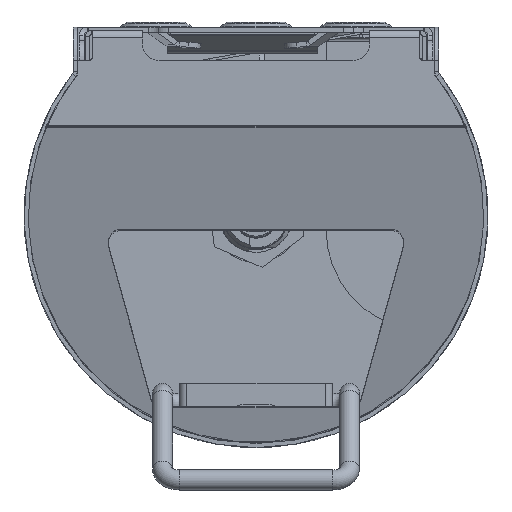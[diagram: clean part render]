
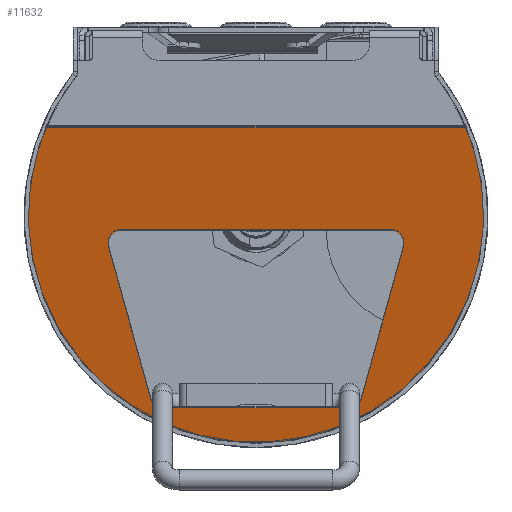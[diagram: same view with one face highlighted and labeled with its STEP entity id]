
A CAD part, front view. The second image highlights one B-rep face of the part: STEP entity #11632.
In plain terms, the highlighted planar face has unit normal (0, -0.966, -0.259) as drawn and (-0.259, -0.966, 0) by its records, which use the part's own axes.
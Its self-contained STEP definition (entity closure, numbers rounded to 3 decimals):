
#44=ELLIPSE('',#12546,70.658,68.25);
#564=FACE_BOUND('',#2084,.T.);
#823=PLANE('',#12547);
#1318=FACE_OUTER_BOUND('',#2083,.T.);
#2083=EDGE_LOOP('',(#9021,#9022));
#2084=EDGE_LOOP('',(#9023,#9024,#9025,#9026,#9027,#9028,#9029,#9030));
#2791=CIRCLE('',#12548,3.);
#2792=CIRCLE('',#12549,3.);
#2793=CIRCLE('',#12550,4.);
#2794=CIRCLE('',#12551,4.);
#3569=LINE('',#18552,#4568);
#3570=LINE('',#18555,#4569);
#3571=LINE('',#18559,#4570);
#3572=LINE('',#18563,#4571);
#3573=LINE('',#18567,#4572);
#4568=VECTOR('',#14700,125.836);
#4569=VECTOR('',#14701,49.425);
#4570=VECTOR('',#14704,57.);
#4571=VECTOR('',#14707,49.425);
#4572=VECTOR('',#14710,80.653);
#5547=VERTEX_POINT('',#18493);
#5550=VERTEX_POINT('',#18522);
#5553=VERTEX_POINT('',#18553);
#5554=VERTEX_POINT('',#18554);
#5555=VERTEX_POINT('',#18556);
#5556=VERTEX_POINT('',#18558);
#5557=VERTEX_POINT('',#18560);
#5558=VERTEX_POINT('',#18562);
#5559=VERTEX_POINT('',#18564);
#5560=VERTEX_POINT('',#18566);
#6812=EDGE_CURVE('',#5550,#5547,#44,.T.);
#6813=EDGE_CURVE('',#5547,#5550,#3569,.T.);
#6814=EDGE_CURVE('',#5553,#5554,#3570,.T.);
#6815=EDGE_CURVE('',#5554,#5555,#2791,.T.);
#6816=EDGE_CURVE('',#5555,#5556,#3571,.T.);
#6817=EDGE_CURVE('',#5556,#5557,#2792,.T.);
#6818=EDGE_CURVE('',#5557,#5558,#3572,.T.);
#6819=EDGE_CURVE('',#5558,#5559,#2793,.T.);
#6820=EDGE_CURVE('',#5559,#5560,#3573,.T.);
#6821=EDGE_CURVE('',#5560,#5553,#2794,.T.);
#9021=ORIENTED_EDGE('',*,*,#6812,.T.);
#9022=ORIENTED_EDGE('',*,*,#6813,.T.);
#9023=ORIENTED_EDGE('',*,*,#6814,.T.);
#9024=ORIENTED_EDGE('',*,*,#6815,.T.);
#9025=ORIENTED_EDGE('',*,*,#6816,.T.);
#9026=ORIENTED_EDGE('',*,*,#6817,.T.);
#9027=ORIENTED_EDGE('',*,*,#6818,.T.);
#9028=ORIENTED_EDGE('',*,*,#6819,.T.);
#9029=ORIENTED_EDGE('',*,*,#6820,.T.);
#9030=ORIENTED_EDGE('',*,*,#6821,.T.);
#11632=ADVANCED_FACE('',(#1318,#564),#823,.F.);
#12546=AXIS2_PLACEMENT_3D('',#18550,#14696,#14697);
#12547=AXIS2_PLACEMENT_3D('',#18551,#14698,#14699);
#12548=AXIS2_PLACEMENT_3D('',#18557,#14702,#14703);
#12549=AXIS2_PLACEMENT_3D('',#18561,#14705,#14706);
#12550=AXIS2_PLACEMENT_3D('',#18565,#14708,#14709);
#12551=AXIS2_PLACEMENT_3D('',#18568,#14711,#14712);
#14696=DIRECTION('center_axis',(-0.259,-0.966,0.));
#14697=DIRECTION('ref_axis',(-0.966,0.259,0.));
#14698=DIRECTION('center_axis',(0.259,0.966,0.));
#14699=DIRECTION('ref_axis',(0.,0.,1.));
#14700=DIRECTION('',(0.,0.,1.));
#14701=DIRECTION('',(-0.933,0.25,0.259));
#14702=DIRECTION('center_axis',(0.259,0.966,0.));
#14703=DIRECTION('ref_axis',(-0.966,0.259,0.));
#14704=DIRECTION('',(0.,0.,1.));
#14705=DIRECTION('center_axis',(0.259,0.966,0.));
#14706=DIRECTION('ref_axis',(0.,0.,
1.));
#14707=DIRECTION('',(0.933,-0.25,0.259));
#14708=DIRECTION('center_axis',(0.259,0.966,0.));
#14709=DIRECTION('ref_axis',(0.966,-0.259,0.));
#14710=DIRECTION('',(0.,0.,-1.));
#14711=DIRECTION('center_axis',(0.259,0.966,0.));
#14712=DIRECTION('ref_axis',(-0.25,0.067,-0.966));
#18493=CARTESIAN_POINT('',(50.009,-173.616,-62.918));
#18522=CARTESIAN_POINT('',(50.009,-173.616,62.918));
#18550=CARTESIAN_POINT('Origin',(23.563,-166.529,0.));
#18551=CARTESIAN_POINT('Origin',(9.23,-162.689,0.));
#18552=CARTESIAN_POINT('',(50.009,-173.616,0.));
#18553=CARTESIAN_POINT('',(14.236,-164.03,-44.19));
#18554=CARTESIAN_POINT('',(-31.878,-151.674,-31.398));
#18555=CARTESIAN_POINT('',(-16.492,-155.797,-35.666));
#18556=CARTESIAN_POINT('',(-34.026,-151.098,-28.5));
#18557=CARTESIAN_POINT('Origin',(-31.128,-151.875,-28.5));
#18558=CARTESIAN_POINT('',(-34.026,-151.098,28.5));
#18559=CARTESIAN_POINT('',(-34.026,-151.098,14.25));
#18560=CARTESIAN_POINT('',(-31.878,-151.674,31.398));
#18561=CARTESIAN_POINT('Origin',(-31.128,-151.875,28.5));
#18562=CARTESIAN_POINT('',(14.236,-164.03,44.19));
#18563=CARTESIAN_POINT('',(6.565,-161.975,42.062));
#18564=CARTESIAN_POINT('',(19.1,-165.333,40.326));
#18565=CARTESIAN_POINT('Origin',(15.236,-164.298,40.326));
#18566=CARTESIAN_POINT('',(19.1,-165.333,-40.326));
#18567=CARTESIAN_POINT('',(19.1,-165.333,15.75));
#18568=CARTESIAN_POINT('Origin',(15.236,-164.298,-40.326));
